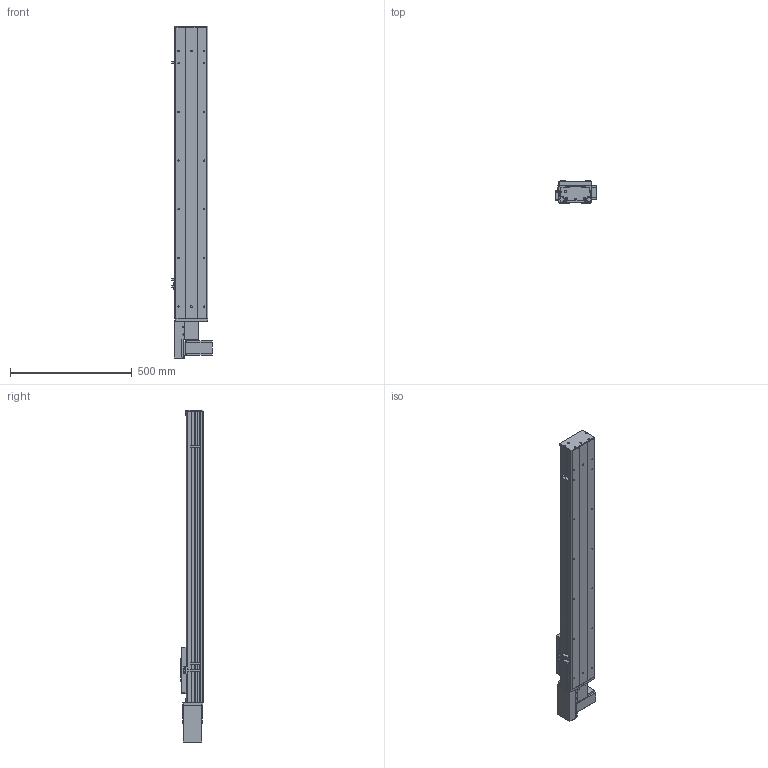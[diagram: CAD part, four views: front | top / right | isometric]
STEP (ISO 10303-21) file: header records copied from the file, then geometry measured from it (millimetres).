
FILE_DESCRIPTION (( 'STEP AP203' ), '1' );
FILE_NAME ('Y135CB-D90-S900-BR-P400W.STEP', '2020-02-18T02:27:45', ( '微软用户' ), ( '微软中国' ), 'SwSTEP 2.0', 'SolidWorks 2017', '' );
FILE_SCHEMA (( 'CONFIG_CONTROL_DESIGN' ));
Length unit declared in the file: millimetre
Products named in the file (18): 0B-萇儂楊擘啣; Y10B--々湍喘謫眊--666; san松下电机400不带刹车----; Y135CB-D90-S900-BR-P400W; 5CB --掛极耜裔啣-; Y135CB-耜裔; C-詩湍揤踡え-陔; 135CB---遴掛极.-; 135CB--詩湍-CE; 35CB---喘謫眊楊擘啣; Y100-135俋离換覜ん--; Y10B-耜蚾蟀諉啣----; Y135C-陔俋离換覜結え-; Y俋欶BR----; 5C--俋欶; 0B-埴倛裔啣; C-雄赽釱--; 0B-源倛裔啣
Assembly tree (21 placements, depth 2):
  Y135CB-D90-S900-BR-P400W
    Y135CB-耜裔
    135CB---遴掛极.-
    35CB---喘謫眊楊擘啣
    Y10B-耜蚾蟀諉啣----
    Y俋欶BR----
    0B-埴倛裔啣
    0B-源倛裔啣
    0B-萇儂楊擘啣
    san松下电机400不带刹车----
    5CB --掛极耜裔啣-  x2
    C-詩湍揤踡え-陔  x2
    135CB--詩湍-CE
    Y100-135俋离換覜ん--  x3
    Y135C-陔俋离換覜結え-
    5C--俋欶
    C-雄赽釱--
    Y10B--々湍喘謫眊--666
Bounding box: 167.5 x 91 x 1364.5 mm (x, y, z)
Volume: 4127497.3 mm3; surface area: 1613125.1 mm2
Topology: 21 solids, 21 shells, 945 faces, 2527 edges, 1674 vertices
Faces by surface type: cylinder 471, plane 458, cone 16
Entity records: 29341 total; most frequent: DIRECTION 4871, CARTESIAN_POINT 4812, ORIENTED_EDGE 4530, EDGE_CURVE 2265, AXIS2_PLACEMENT_3D 1773, VERTEX_POINT 1502, VECTOR 1325, LINE 1325
